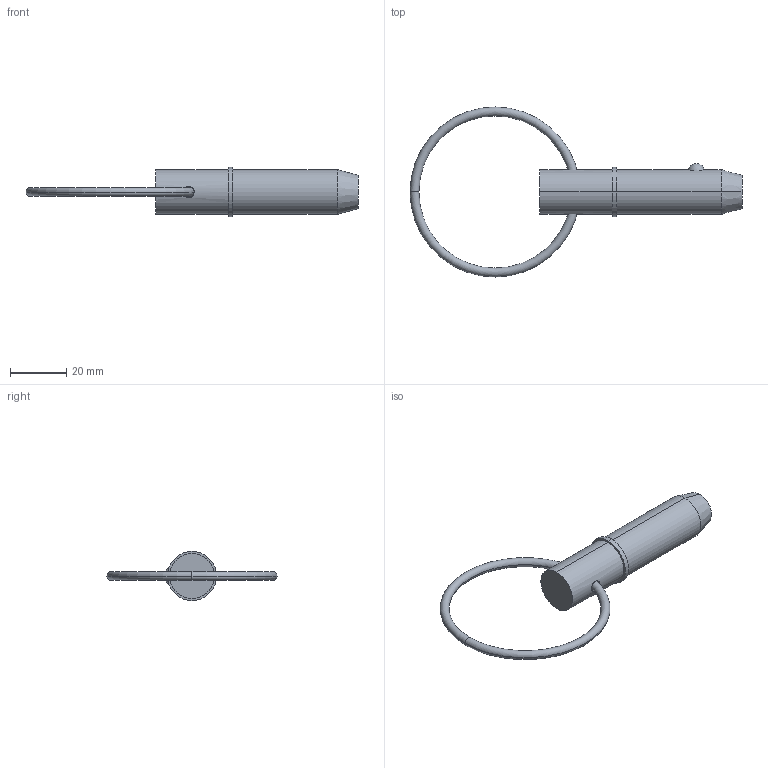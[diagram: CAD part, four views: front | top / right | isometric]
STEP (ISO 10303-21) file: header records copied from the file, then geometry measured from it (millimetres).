
FILE_DESCRIPTION (( 'STEP AP203' ), '1' );
FILE_NAME ('33016.W6210.step', '2024-11-07T11:12:09', ( '' ), ( '' ), 'SwSTEP 2.0', 'SolidWorks 2019', '' );
FILE_SCHEMA (( 'CONFIG_CONTROL_DESIGN' ));
Length unit declared in the file: millimetre
Products named in the file (3): Part1_33016.W6210; Part2_33016.W6210; 33016.W6210
Assembly tree (2 placements, depth 2):
  33016.W6210
    Part1_33016.W6210
    Part2_33016.W6210
Bounding box: 117.78 x 60.33 x 17.47 mm (x, y, z)
Volume: 15203 mm3; surface area: 5926.8 mm2
Topology: 2 solids, 2 shells, 22 faces, 43 edges, 26 vertices
Faces by surface type: torus 8, cylinder 6, plane 4, sphere 2, cone 2
Entity records: 1047 total; most frequent: CARTESIAN_POINT 270, DIRECTION 120, ORIENTED_EDGE 86, AXIS2_PLACEMENT_3D 56, EDGE_CURVE 43, CIRCLE 29, EDGE_LOOP 27, PERSON_AND_ORGANIZATION 26
